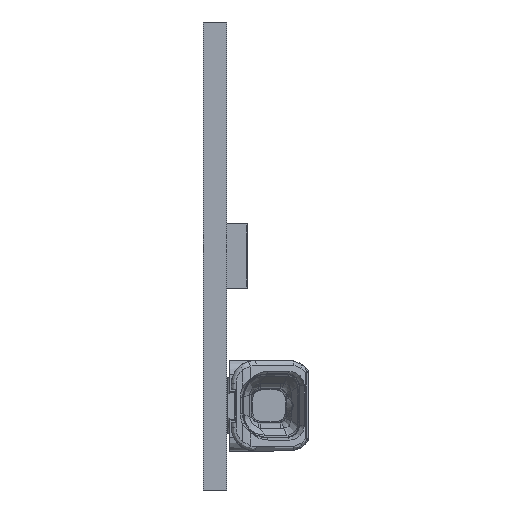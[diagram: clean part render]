
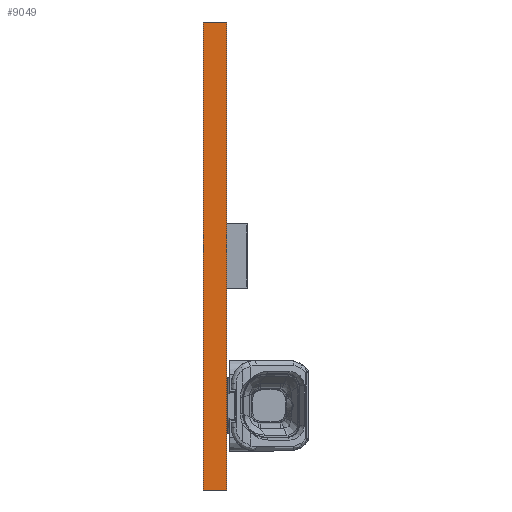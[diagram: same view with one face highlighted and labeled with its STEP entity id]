
A CAD part, left-side view. The second image highlights one B-rep face of the part: STEP entity #9049.
In plain terms, the highlighted planar face has unit normal (-1, 0, 0).
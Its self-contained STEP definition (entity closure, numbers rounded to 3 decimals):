
#893=ORIENTED_EDGE('',*,*,#3199,.F.);
#894=ORIENTED_EDGE('',*,*,#3198,.F.);
#895=ORIENTED_EDGE('',*,*,#3200,.T.);
#896=ORIENTED_EDGE('',*,*,#3201,.T.);
#3198=EDGE_CURVE('',#4351,#4349,#5091,.T.);
#3199=EDGE_CURVE('',#4349,#4352,#5092,.T.);
#3200=EDGE_CURVE('',#4351,#4353,#5093,.T.);
#3201=EDGE_CURVE('',#4353,#4352,#5094,.T.);
#4349=VERTEX_POINT('',#11858);
#4351=VERTEX_POINT('',#11862);
#4352=VERTEX_POINT('',#11866);
#4353=VERTEX_POINT('',#11868);
#5091=LINE('',#11863,#5722);
#5092=LINE('',#11865,#5723);
#5093=LINE('',#11867,#5724);
#5094=LINE('',#11869,#5725);
#5722=VECTOR('',#10088,1000.);
#5723=VECTOR('',#10091,1000.);
#5724=VECTOR('',#10092,1000.);
#5725=VECTOR('',#10093,1000.);
#6351=EDGE_LOOP('',(#893,#894,#895,#896));
#6828=FACE_BOUND('',#6351,.T.);
#7305=PLANE('',#9512);
#9049=ADVANCED_FACE('',(#6828),#7305,.T.);
#9512=AXIS2_PLACEMENT_3D('',#11864,#10089,#10090);
#10088=DIRECTION('',(0.,-1.,0.));
#10089=DIRECTION('',(-1.,0.,0.));
#10090=DIRECTION('',(0.,0.,1.));
#10091=DIRECTION('',(0.,0.,-1.));
#10092=DIRECTION('',(0.,0.,-1.));
#10093=DIRECTION('',(0.,-1.,0.));
#11858=CARTESIAN_POINT('',(-280.,0.,10.));
#11862=CARTESIAN_POINT('',(-280.,1.,10.));
#11863=CARTESIAN_POINT('',(-280.,1.,10.));
#11864=CARTESIAN_POINT('',(-280.,1.,10.));
#11865=CARTESIAN_POINT('',(-280.,0.,10.));
#11866=CARTESIAN_POINT('',(-280.,0.,-10.));
#11867=CARTESIAN_POINT('',(-280.,1.,10.));
#11868=CARTESIAN_POINT('',(-280.,1.,-10.));
#11869=CARTESIAN_POINT('',(-280.,1.,-10.));
